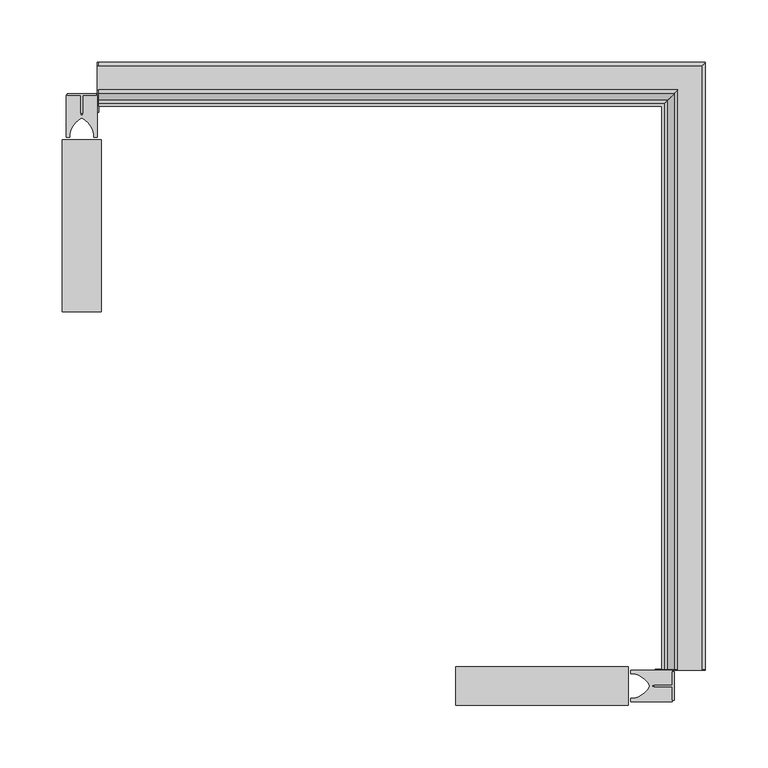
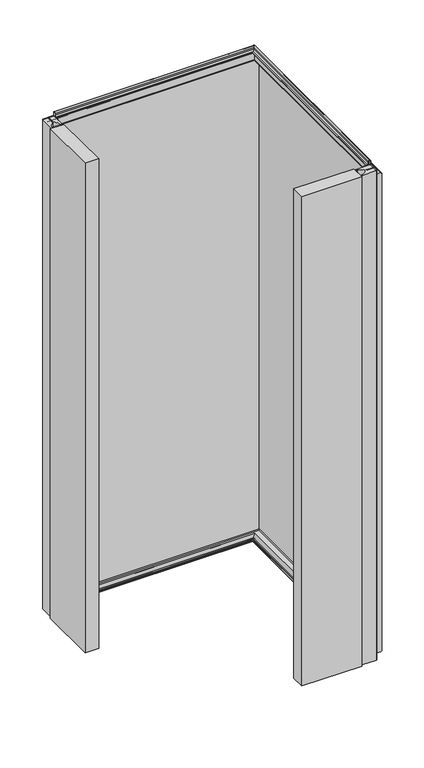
"""IFC4 building model written with IfcOpenShell, lengths in millimetres: plate geometry, Угловой модуль Fronttop : Угловой модуль Fronttop 200/1190."""

from ifc_helpers import new_model, si_unit, point, frame, frame_2d, origin, origin_with_axes, place, context, project, spatial, polyline, circle_curve, ellipse_curve, trimmed, segment, composite_curve, outline, extrude, source, transform, mapped, element, save
from ifc_brep_helpers import plane_surface, cylinder_surface, revolved_surface, advanced_brep


def plate_9b784b5d(model_context):
    return source(origin(), model_context, "Body", "SolidModel", [
        extrude(outline(polyline([(225.0, -288.4948846), (225.0, -311.5051154), (223.5, -311.5051154), (223.5, -300.6502496), (209.0759655, -300.6502496), (209.0759655, -299.35), (223.5, -299.35), (223.5, -288.4948846), (225.0, -288.4948846)])), origin_with_axes(), (0.0, 0.0, 1.0), 1190.0),
        extrude(outline(composite_curve([segment(polyline([(223.5, -287.4998455), (223.5, -299.25), (207.5, -299.25), (207.5, -300.75), (223.5, -300.75), (223.5, -312.5001545), (190.0, -312.5001545), (190.0, -309.75), (192.5, -309.75)]), True, "CONTINUOUS"), segment(trimmed(circle_curve(frame_2d((189.3183984, -291.9661979)), 18.0661619), [point((192.5, -309.75))], [point((205.5, -300.0))], True, "CARTESIAN"), True, "CONTINUOUS"), segment(trimmed(circle_curve(frame_2d((189.3183984, -308.0338021)), 18.0661619), [point((205.5, -300.0))], [point((192.5, -290.25))], True, "CARTESIAN"), True, "CONTINUOUS"), segment(polyline([(192.5, -290.25), (190.0, -290.25), (190.0, -287.4998455), (223.5, -287.4998455)]), True, "CONTINUOUS")], self_intersect=False)), origin_with_axes(), (0.0, 0.0, 1.0), 1190.0),
        extrude(outline(polyline([(50.0, -315.5), (50.0, -284.5), (188.0, -284.5), (188.0, -315.5), (50.0, -315.5)])), origin_with_axes(), (0.0, 0.0, 1.0), 1190.0),
        extrude(outline(polyline([(-261.5051154, 175.0), (-238.4948846, 175.0), (-238.4948846, 173.5), (-249.3497504, 173.5), (-249.3497504, 159.0759655), (-250.65, 159.0759655), (-250.65, 173.5), (-261.5051154, 173.5), (-261.5051154, 175.0)])), origin_with_axes(), (0.0, 0.0, 1.0), 1190.0),
        extrude(outline(composite_curve([segment(polyline([(-262.5001545, 173.5), (-250.75, 173.5), (-250.75, 157.5), (-249.25, 157.5), (-249.25, 173.5), (-237.4998455, 173.5), (-237.4998455, 140.0), (-240.25, 140.0), (-240.25, 142.5)]), True, "CONTINUOUS"), segment(trimmed(circle_curve(frame_2d((-258.0338021, 139.3183984)), 18.0661619), [point((-240.25, 142.5))], [point((-250.0, 155.5))], True, "CARTESIAN"), True, "CONTINUOUS"), segment(trimmed(circle_curve(frame_2d((-241.9661979, 139.3183984)), 18.0661619), [point((-250.0, 155.5))], [point((-259.75, 142.5))], True, "CARTESIAN"), True, "CONTINUOUS"), segment(polyline([(-259.75, 142.5), (-259.75, 140.0), (-262.5001545, 140.0), (-262.5001545, 173.5)]), True, "CONTINUOUS")], self_intersect=False)), origin_with_axes(), (0.0, 0.0, 1.0), 1190.0),
        extrude(outline(polyline([(-234.5, 0.0), (-265.5, 0.0), (-265.5, 138.0), (-234.5, 138.0), (-234.5, 0.0)])), origin_with_axes(), (0.0, 0.0, 1.0), 1190.0),
        advanced_brep(
        [(-236.5, 174.0, 1198.0), (-236.5, 171.0, 1198.0), (-236.5, 171.0, 1194.0), (-236.5, 167.0, 1190.0), (-236.5, 165.0, 1190.0), (-236.5, 165.0, 1191.0), (-236.5, 167.0, 1191.0), (-236.5, 170.0, 1194.0), (-236.5, 170.0, 1198.0), (-236.5, 175.0, 1198.0), (-236.5, 175.0, 1190.0), (-236.5, 174.0, 1190.0), (-236.5, 165.0, 2.0), (215.0, 165.0, 2.0), (215.0, 165.0, 3.0), (-236.5, 165.0, 3.0), (215.0, -286.5, 3.0), (217.0, -286.5, 3.0), (217.0, 167.0, 3.0), (-236.5, 167.0, 3.0), (218.0, 168.0, 4.0), (-236.5, 168.0, 4.0), (218.0, 168.0, 8.0), (-236.5, 168.0, 8.0), (227.0, 177.0, 8.0), (-236.5, 177.0, 8.0), (227.0, 177.0, 0.0), (-236.5, 177.0, 0.0), (229.0, 179.0, -2.0), (-236.5, 179.0, -2.0), (229.0, -286.5, -2.0), (247.0, -286.5, -2.0), (247.0, 197.0, -2.0), (-236.5, 197.0, -2.0), (249.0, 199.0, 0.0), (-236.5, 199.0, 0.0), (249.0, 199.0, 1159.0), (-236.5, 199.0, 1159.0), (247.0, 197.0, 1161.0), (-236.5, 197.0, 1161.0), (247.0, -286.5, 1161.0), (228.0, -286.5, 1161.0), (228.0, 178.0, 1161.0), (-236.5, 178.0, 1161.0), (224.0, 174.0, 1165.0), (-236.5, 174.0, 1165.0), (224.0, 174.0, 1198.0), (221.0, 171.0, 1198.0), (221.0, 171.0, 1194.0), (217.0, 167.0, 1190.0), (217.0, -286.5, 1190.0), (215.0, -286.5, 1190.0), (215.0, 165.0, 1190.0), (215.0, 165.0, 1191.0), (215.0, -286.5, 1191.0), (217.0, -286.5, 1191.0), (217.0, 167.0, 1191.0), (220.0, 170.0, 1194.0), (220.0, 170.0, 1198.0), (225.0, 175.0, 1198.0), (225.0, 175.0, 1165.0), (-236.5, 175.0, 1165.0), (-237.5, 175.0, 1165.0), (-237.5, 175.0, 1190.0), (228.0, 178.0, 1162.0), (-236.5, 178.0, 1162.0), (228.0, -286.5, 1162.0), (228.0, -287.5, 1162.0), (247.0, -287.5, 1162.0), (247.0, -286.5, 1162.0), (247.0, 197.0, 1162.0), (-236.5, 197.0, 1162.0), (-237.5, 197.0, 1162.0), (-237.5, 178.0, 1162.0), (250.0, 200.0, 1159.0), (-236.5, 200.0, 1159.0), (250.0, 200.0, 0.0), (-236.5, 200.0, 0.0), (-237.5, 200.0, 0.0), (-237.5, 200.0, 1159.0), (247.0, 197.0, -3.0), (-236.5, 197.0, -3.0), (247.0, -286.5, -3.0), (247.0, -287.5, -3.0), (225.0, -287.5, -3.0), (225.0, -286.5, -3.0), (229.0, -286.5, -3.0), (229.0, 179.0, -3.0), (-236.5, 179.0, -3.0), (-236.5, 175.0, -3.0), (-237.5, 175.0, -3.0), (-237.5, 197.0, -3.0), (226.0, 176.0, 0.0), (-236.5, 176.0, 0.0), (226.0, 176.0, 8.0), (-236.5, 176.0, 8.0), (219.0, 169.0, 8.0), (-236.5, 169.0, 8.0), (219.0, 169.0, 4.0), (-236.5, 169.0, 4.0), (217.0, 167.0, 2.0), (-236.5, 167.0, 2.0), (217.0, -286.5, 2.0), (215.0, -286.5, 2.0), (221.0, -286.5, 1194.0), (221.0, -286.5, 1198.0), (224.0, -286.5, 1198.0), (224.0, -286.5, 1190.0), (225.0, -286.5, 1190.0), (225.0, -286.5, 1198.0), (220.0, -286.5, 1198.0), (220.0, -286.5, 1194.0), (218.0, -286.5, 4.0), (218.0, -286.5, 8.0), (227.0, -286.5, 8.0), (227.0, -286.5, 0.0), (249.0, -286.5, 0.0), (249.0, -286.5, 1159.0), (224.0, -286.5, 1165.0), (225.0, -287.5, 1190.0), (225.0, -287.5, 1165.0), (225.0, -286.5, 1165.0), (250.0, -286.5, 1159.0), (250.0, -287.5, 1159.0), (250.0, -287.5, 0.0), (250.0, -286.5, 0.0), (226.0, -286.5, 0.0), (226.0, -286.5, 8.0), (219.0, -286.5, 8.0), (219.0, -286.5, 4.0), (-236.5, 160.0, 1190.0), (-236.5, 160.0, 0.0), (-236.5, 175.0, 0.0), (-237.5, 175.0, 0.0), (-237.5, 160.0, 0.0), (-237.5, 160.0, 1190.0), (210.0, -286.5, 0.0), (210.0, -286.5, 1190.0), (225.0, -286.5, 0.0), (210.0, -287.5, 0.0), (225.0, -287.5, 0.0), (210.0, -287.5, 1190.0)],
        [
            (0, 1, circle_curve(frame((-236.5, 172.5, 1198.0), z_axis=(1.0, 0.0, 0.0), x_axis=(0.0, -1.0, 0.0)), 1.5)),
            (1, 2),
            (2, 3, circle_curve(frame((-236.5, 167.0, 1194.0), z_axis=(-1.0, 0.0, 0.0), x_axis=(0.0, -1.0, 0.0)), 4.0)),
            (3, 4),
            (4, 5),
            (5, 6),
            (6, 7, circle_curve(frame((-236.5, 167.0, 1194.0), z_axis=(1.0, 0.0, 0.0), x_axis=(0.0, -1.0, 0.0)), 3.0)),
            (7, 8),
            (8, 9, circle_curve(frame((-236.5, 172.5, 1198.0), z_axis=(-1.0, 0.0, 0.0), x_axis=(0.0, -1.0, 0.0)), 2.5)),
            (9, 10),
            (10, 11),
            (11, 0),
            (12, 13),
            (13, 14),
            (14, 15),
            (15, 12),
            (14, 16),
            (16, 17),
            (17, 18),
            (18, 19),
            (19, 15),
            (18, 20, ellipse_curve(frame((217.0, 167.0, 4.0), z_axis=(0.7071067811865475, -0.7071067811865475, 0.0), x_axis=(0.7071067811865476, 0.7071067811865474, 0.0)), 1.4142136, 1.0)),
            (20, 21),
            (21, 19, circle_curve(frame((-236.5, 167.0, 4.0), z_axis=(-1.0, 0.0, 0.0), x_axis=(0.0, -1.0, 0.0)), 1.0)),
            (20, 22),
            (22, 23),
            (23, 21),
            (22, 24, ellipse_curve(frame((222.5, 172.5, 8.0), z_axis=(-0.7071067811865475, 0.7071067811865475, 0.0), x_axis=(-0.7071067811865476, -0.7071067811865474, 0.0)), 6.363961, 4.5)),
            (24, 25),
            (25, 23, circle_curve(frame((-236.5, 172.5, 8.0), z_axis=(1.0, 0.0, 0.0), x_axis=(0.0, -1.0, 0.0)), 4.5)),
            (24, 26),
            (26, 27),
            (27, 25),
            (26, 28, ellipse_curve(frame((229.0, 179.0, 0.0), z_axis=(0.7071067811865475, -0.7071067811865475, 0.0), x_axis=(0.7071067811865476, 0.7071067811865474, 0.0)), 2.8284271, 2.0)),
            (28, 29),
            (29, 27, circle_curve(frame((-236.5, 179.0, 0.0), z_axis=(-1.0, 0.0, 0.0), x_axis=(0.0, -1.0, 0.0)), 2.0)),
            (28, 30),
            (30, 31),
            (31, 32),
            (32, 33),
            (33, 29),
            (32, 34, ellipse_curve(frame((247.0, 197.0, 0.0), z_axis=(0.7071067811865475, -0.7071067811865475, 0.0), x_axis=(0.7071067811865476, 0.7071067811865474, 0.0)), 2.8284271, 2.0)),
            (34, 35),
            (35, 33, circle_curve(frame((-236.5, 197.0, 0.0), z_axis=(-1.0, 0.0, 0.0), x_axis=(0.0, -1.0, 0.0)), 2.0)),
            (34, 36),
            (36, 37),
            (37, 35),
            (36, 38, ellipse_curve(frame((247.0, 197.0, 1159.0), z_axis=(0.7071067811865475, -0.7071067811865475, 0.0), x_axis=(0.7071067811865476, 0.7071067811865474, 0.0)), 2.8284271, 2.0)),
            (38, 39),
            (39, 37, circle_curve(frame((-236.5, 197.0, 1159.0), z_axis=(-1.0, 0.0, 0.0), x_axis=(0.0, -1.0, 0.0)), 2.0)),
            (38, 40),
            (40, 41),
            (41, 42),
            (42, 43),
            (43, 39),
            (42, 44, ellipse_curve(frame((228.0, 178.0, 1165.0), z_axis=(-0.7071067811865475, 0.7071067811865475, 0.0), x_axis=(-0.7071067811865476, -0.7071067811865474, 0.0)), 5.6568542, 4.0)),
            (44, 45),
            (45, 43, circle_curve(frame((-236.5, 178.0, 1165.0), z_axis=(1.0, 0.0, 0.0), x_axis=(0.0, -1.0, 0.0)), 4.0)),
            (44, 46),
            (46, 0),
            (11, 45),
            (46, 47, ellipse_curve(frame((222.5, 172.5, 1198.0), z_axis=(0.7071067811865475, -0.7071067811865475, 0.0), x_axis=(0.7071067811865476, 0.7071067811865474, 0.0)), 2.1213203, 1.5)),
            (47, 1),
            (47, 48),
            (48, 2),
            (48, 49, ellipse_curve(frame((217.0, 167.0, 1194.0), z_axis=(-0.7071067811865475, 0.7071067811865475, 0.0), x_axis=(-0.7071067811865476, -0.7071067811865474, 0.0)), 5.6568542, 4.0)),
            (49, 3),
            (49, 50),
            (50, 51),
            (51, 52),
            (52, 4),
            (4, 3),
            (52, 53),
            (53, 5),
            (53, 54),
            (54, 55),
            (55, 56),
            (56, 6),
            (56, 57, ellipse_curve(frame((217.0, 167.0, 1194.0), z_axis=(0.7071067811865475, -0.7071067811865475, 0.0), x_axis=(0.7071067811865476, 0.7071067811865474, 0.0)), 4.2426407, 3.0)),
            (57, 7),
            (57, 58),
            (58, 8),
            (58, 59, ellipse_curve(frame((222.5, 172.5, 1198.0), z_axis=(-0.7071067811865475, 0.7071067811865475, 0.0), x_axis=(-0.7071067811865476, -0.7071067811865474, 0.0)), 3.5355339, 2.5)),
            (59, 9),
            (59, 60),
            (60, 61),
            (61, 62),
            (62, 63),
            (63, 10),
            (60, 64, ellipse_curve(frame((228.0, 178.0, 1165.0), z_axis=(0.7071067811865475, -0.7071067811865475, 0.0), x_axis=(0.7071067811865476, 0.7071067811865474, 0.0)), 4.2426407, 3.0)),
            (64, 65),
            (65, 61, circle_curve(frame((-236.5, 178.0, 1165.0), z_axis=(-1.0, 0.0, 0.0), x_axis=(0.0, -1.0, 0.0)), 3.0)),
            (64, 66),
            (66, 67),
            (67, 68),
            (68, 69),
            (69, 70),
            (70, 71),
            (71, 72),
            (72, 73),
            (73, 65),
            (70, 74, ellipse_curve(frame((247.0, 197.0, 1159.0), z_axis=(-0.7071067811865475, 0.7071067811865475, 0.0), x_axis=(-0.7071067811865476, -0.7071067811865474, 0.0)), 4.2426407, 3.0)),
            (74, 75),
            (75, 71, circle_curve(frame((-236.5, 197.0, 1159.0), z_axis=(1.0, 0.0, 0.0), x_axis=(0.0, -1.0, 0.0)), 3.0)),
            (74, 76),
            (76, 77),
            (77, 78),
            (78, 79),
            (79, 75),
            (76, 80, ellipse_curve(frame((247.0, 197.0, 0.0), z_axis=(-0.7071067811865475, 0.7071067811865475, 0.0), x_axis=(-0.7071067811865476, -0.7071067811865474, 0.0)), 4.2426407, 3.0)),
            (80, 81),
            (81, 77, circle_curve(frame((-236.5, 197.0, 0.0), z_axis=(1.0, 0.0, 0.0), x_axis=(0.0, -1.0, 0.0)), 3.0)),
            (80, 82),
            (82, 83),
            (83, 84),
            (84, 85),
            (85, 86),
            (86, 87),
            (87, 88),
            (88, 89),
            (89, 90),
            (90, 91),
            (91, 81),
            (87, 92, ellipse_curve(frame((229.0, 179.0, 0.0), z_axis=(-0.7071067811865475, 0.7071067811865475, 0.0), x_axis=(-0.7071067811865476, -0.7071067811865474, 0.0)), 4.2426407, 3.0)),
            (92, 93),
            (93, 88, circle_curve(frame((-236.5, 179.0, 0.0), z_axis=(1.0, 0.0, 0.0), x_axis=(0.0, -1.0, 0.0)), 3.0)),
            (92, 94),
            (94, 95),
            (95, 93),
            (94, 96, ellipse_curve(frame((222.5, 172.5, 8.0), z_axis=(0.7071067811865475, -0.7071067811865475, 0.0), x_axis=(0.7071067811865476, 0.7071067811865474, 0.0)), 4.9497475, 3.5)),
            (96, 97),
            (97, 95, circle_curve(frame((-236.5, 172.5, 8.0), z_axis=(-1.0, 0.0, 0.0), x_axis=(0.0, -1.0, 0.0)), 3.5)),
            (96, 98),
            (98, 99),
            (99, 97),
            (98, 100, ellipse_curve(frame((217.0, 167.0, 4.0), z_axis=(-0.7071067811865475, 0.7071067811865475, 0.0), x_axis=(-0.7071067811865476, -0.7071067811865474, 0.0)), 2.8284271, 2.0)),
            (100, 101),
            (101, 99, circle_curve(frame((-236.5, 167.0, 4.0), z_axis=(1.0, 0.0, 0.0), x_axis=(0.0, -1.0, 0.0)), 2.0)),
            (12, 101),
            (100, 102),
            (102, 103),
            (103, 13),
            (54, 51),
            (51, 50),
            (50, 104, circle_curve(frame((217.0, -286.5, 1194.0), z_axis=(0.0, -1.0, 0.0), x_axis=(-1.0, 0.0, 0.0)), 4.0)),
            (104, 105),
            (105, 106, circle_curve(frame((222.5, -286.5, 1198.0), z_axis=(0.0, 1.0, 0.0), x_axis=(-1.0, 0.0, 0.0)), 1.5)),
            (106, 107),
            (107, 108),
            (108, 109),
            (109, 110, circle_curve(frame((222.5, -286.5, 1198.0), z_axis=(0.0, -1.0, 0.0), x_axis=(-1.0, 0.0, 0.0)), 2.5)),
            (110, 111),
            (111, 55, circle_curve(frame((217.0, -286.5, 1194.0), z_axis=(0.0, 1.0, 0.0), x_axis=(-1.0, 0.0, 0.0)), 3.0)),
            (103, 16),
            (17, 112, circle_curve(frame((217.0, -286.5, 4.0), z_axis=(0.0, -1.0, 0.0), x_axis=(-1.0, 0.0, 0.0)), 1.0)),
            (112, 20),
            (112, 113),
            (113, 22),
            (113, 114, circle_curve(frame((222.5, -286.5, 8.0), z_axis=(0.0, 1.0, 0.0), x_axis=(-1.0, 0.0, 0.0)), 4.5)),
            (114, 24),
            (114, 115),
            (115, 26),
            (115, 30, circle_curve(frame((229.0, -286.5, 0.0), z_axis=(0.0, -1.0, 0.0), x_axis=(-1.0, 0.0, 0.0)), 2.0)),
            (31, 116, circle_curve(frame((247.0, -286.5, 0.0), z_axis=(0.0, -1.0, 0.0), x_axis=(-1.0, 0.0, 0.0)), 2.0)),
            (116, 34),
            (116, 117),
            (117, 36),
            (117, 40, circle_curve(frame((247.0, -286.5, 1159.0), z_axis=(0.0, -1.0, 0.0), x_axis=(-1.0, 0.0, 0.0)), 2.0)),
            (41, 118, circle_curve(frame((228.0, -286.5, 1165.0), z_axis=(0.0, 1.0, 0.0), x_axis=(-1.0, 0.0, 0.0)), 4.0)),
            (118, 44),
            (118, 107),
            (106, 46),
            (105, 47),
            (104, 48),
            (111, 57),
            (110, 58),
            (109, 59),
            (108, 119),
            (119, 120),
            (120, 121),
            (121, 60),
            (121, 66, circle_curve(frame((228.0, -286.5, 1165.0), z_axis=(0.0, -1.0, 0.0), x_axis=(-1.0, 0.0, 0.0)), 3.0)),
            (69, 122, circle_curve(frame((247.0, -286.5, 1159.0), z_axis=(0.0, 1.0, 0.0), x_axis=(-1.0, 0.0, 0.0)), 3.0)),
            (122, 74),
            (122, 123),
            (123, 124),
            (124, 125),
            (125, 76),
            (125, 82, circle_curve(frame((247.0, -286.5, 0.0), z_axis=(0.0, 1.0, 0.0), x_axis=(-1.0, 0.0, 0.0)), 3.0)),
            (86, 126, circle_curve(frame((229.0, -286.5, 0.0), z_axis=(0.0, 1.0, 0.0), x_axis=(-1.0, 0.0, 0.0)), 3.0)),
            (126, 92),
            (126, 127),
            (127, 94),
            (127, 128, circle_curve(frame((222.5, -286.5, 8.0), z_axis=(0.0, -1.0, 0.0), x_axis=(-1.0, 0.0, 0.0)), 3.5)),
            (128, 96),
            (128, 129),
            (129, 98),
            (129, 102, circle_curve(frame((217.0, -286.5, 4.0), z_axis=(0.0, 1.0, 0.0), x_axis=(-1.0, 0.0, 0.0)), 2.0)),
            (130, 131),
            (131, 132),
            (132, 89),
            (11, 3),
            (4, 130),
            (62, 73, circle_curve(frame((-237.5, 178.0, 1165.0), z_axis=(1.0, 0.0, 0.0), x_axis=(0.0, 1.0, 0.0)), 3.0)),
            (72, 79, circle_curve(frame((-237.5, 197.0, 1159.0), z_axis=(-1.0, 0.0, 0.0), x_axis=(0.0, 1.0, 0.0)), 3.0)),
            (78, 91, circle_curve(frame((-237.5, 197.0, 0.0), z_axis=(-1.0, 0.0, 0.0), x_axis=(0.0, 1.0, 0.0)), 3.0)),
            (90, 133),
            (133, 134),
            (134, 135),
            (135, 63),
            (135, 130),
            (134, 131),
            (133, 132),
            (136, 137),
            (137, 51),
            (50, 107),
            (85, 138),
            (138, 136),
            (139, 140),
            (140, 84),
            (83, 124, circle_curve(frame((247.0, -287.5, 0.0), z_axis=(0.0, -1.0, 0.0), x_axis=(-1.0, 0.0, 0.0)), 3.0)),
            (123, 68, circle_curve(frame((247.0, -287.5, 1159.0), z_axis=(0.0, -1.0, 0.0), x_axis=(-1.0, 0.0, 0.0)), 3.0)),
            (67, 120, circle_curve(frame((228.0, -287.5, 1165.0), z_axis=(0.0, 1.0, 0.0), x_axis=(-1.0, 0.0, 0.0)), 3.0)),
            (119, 141),
            (141, 139),
            (138, 140),
            (139, 136),
            (137, 141),
        ],
        [
            plane_surface(frame((-236.5, 0.0, 0.0), z_axis=(-1.0, 0.0, 0.0), x_axis=(0.0, 0.0, 1.0))),
            plane_surface(frame((-236.5, 165.0, 2.0), z_axis=(0.0, -1.0, 0.0), x_axis=(1.0, 0.0, 0.0))),
            plane_surface(frame((-236.5, 165.0, 3.0), z_axis=(0.0, 0.0, 1.0), x_axis=(1.0, 0.0, 0.0))),
            revolved_surface(polyline([(218.00000002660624, 166.0, 4.0), (-236.5, 166.0, 4.0)]), (-236.5, 167.0, 4.0), (1.0, 0.0, 0.0)),
            plane_surface(frame((-236.5, 168.0, 4.0), z_axis=(0.0, -1.0, 0.0), x_axis=(1.0, 0.0, 0.0))),
            cylinder_surface(frame((-236.5, 172.5, 8.0), z_axis=(-1.0, 0.0, 0.0), x_axis=(0.0, -1.0, 0.0)), 4.5),
            plane_surface(frame((-236.5, 177.0, 8.0), z_axis=(0.0, 1.0, 0.0), x_axis=(1.0, 0.0, 0.0))),
            revolved_surface(polyline([(230.99999998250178, 177.0, 0.0), (-236.5, 177.0, 0.0)]), (-236.5, 179.0, 0.0), (1.0, 0.0, 0.0)),
            plane_surface(frame((-236.5, 179.0, -2.0), z_axis=(0.0, 0.0, 1.0), x_axis=(1.0, 0.0, 0.0))),
            revolved_surface(polyline([(249.0, 195.0, 0.0), (-236.5, 195.0, 0.0)]), (-236.5, 197.0, 0.0), (1.0, 0.0, 0.0)),
            plane_surface(frame((-236.5, 199.0, 0.0), z_axis=(0.0, -1.0, 0.0), x_axis=(1.0, 0.0, 0.0))),
            revolved_surface(polyline([(249.0, 195.0, 1159.0), (-236.5, 195.0, 1159.0)]), (-236.5, 197.0, 1159.0), (1.0, 0.0, 0.0)),
            plane_surface(frame((-236.5, 197.0, 1161.0), z_axis=(0.0, 0.0, -1.0), x_axis=(1.0, 0.0, 0.0))),
            cylinder_surface(frame((-236.5, 178.0, 1165.0), z_axis=(-1.0, 0.0, 0.0), x_axis=(0.0, -1.0, 0.0)), 4.0),
            plane_surface(frame((-236.5, 174.0, 1165.0), z_axis=(0.0, -1.0, 0.0), x_axis=(1.0, 0.0, 0.0))),
            revolved_surface(polyline([(224.0, 171.0, 1198.0), (-236.5, 171.0, 1198.0)]), (-236.5, 172.5, 1198.0), (1.0, 0.0, 0.0)),
            plane_surface(frame((-236.5, 171.0, 1198.0), z_axis=(0.0, 1.0, 0.0), x_axis=(1.0, 0.0, 0.0))),
            cylinder_surface(frame((-236.5, 167.0, 1194.0), z_axis=(-1.0, 0.0, 0.0), x_axis=(0.0, -1.0, 0.0)), 4.0),
            plane_surface(frame((-236.5, 167.0, 1190.0), z_axis=(0.0, 0.0, -1.0), x_axis=(1.0, 0.0, 0.0))),
            plane_surface(frame((-236.5, 165.0, 1190.0), z_axis=(0.0, -1.0, 0.0), x_axis=(1.0, 0.0, 0.0))),
            plane_surface(frame((-236.5, 165.0, 1191.0), z_axis=(0.0, 0.0, 1.0), x_axis=(1.0, 0.0, 0.0))),
            revolved_surface(polyline([(220.00000000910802, 164.0, 1194.0), (-236.5, 164.0, 1194.0)]), (-236.5, 167.0, 1194.0), (1.0, 0.0, 0.0)),
            plane_surface(frame((-236.5, 170.0, 1194.0), z_axis=(0.0, -1.0, 0.0), x_axis=(1.0, 0.0, 0.0))),
            cylinder_surface(frame((-236.5, 172.5, 1198.0), z_axis=(-1.0, 0.0, 0.0), x_axis=(0.0, -1.0, 0.0)), 2.5),
            plane_surface(frame((-236.5, 175.0, 1198.0), z_axis=(0.0, 1.0, 0.0), x_axis=(1.0, 0.0, 0.0))),
            revolved_surface(polyline([(231.00000000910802, 175.0, 1165.0), (-236.5, 175.0, 1165.0)]), (-236.5, 178.0, 1165.0), (1.0, 0.0, 0.0)),
            plane_surface(frame((-236.5, 178.0, 1162.0), z_axis=(0.0, 0.0, 1.0), x_axis=(1.0, 0.0, 0.0))),
            cylinder_surface(frame((-236.5, 197.0, 1159.0), z_axis=(-1.0, 0.0, 0.0), x_axis=(0.0, -1.0, 0.0)), 3.0),
            plane_surface(frame((-236.5, 200.0, 1159.0), z_axis=(0.0, 1.0, 0.0), x_axis=(1.0, 0.0, 0.0))),
            cylinder_surface(frame((-236.5, 197.0, 0.0), z_axis=(-1.0, 0.0, 0.0), x_axis=(0.0, -1.0, 0.0)), 3.0),
            plane_surface(frame((-236.5, 197.0, -3.0), z_axis=(0.0, 0.0, -1.0), x_axis=(1.0, 0.0, 0.0))),
            cylinder_surface(frame((-236.5, 179.0, 0.0), z_axis=(-1.0, 0.0, 0.0), x_axis=(0.0, -1.0, 0.0)), 3.0),
            plane_surface(frame((-236.5, 176.0, 0.0), z_axis=(0.0, -1.0, 0.0), x_axis=(1.0, 0.0, 0.0))),
            revolved_surface(polyline([(226.00000002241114, 169.0, 8.0), (-236.5, 169.0, 8.0)]), (-236.5, 172.5, 8.0), (1.0, 0.0, 0.0)),
            plane_surface(frame((-236.5, 169.0, 8.0), z_axis=(0.0, 1.0, 0.0), x_axis=(1.0, 0.0, 0.0))),
            cylinder_surface(frame((-236.5, 167.0, 4.0), z_axis=(-1.0, 0.0, 0.0), x_axis=(0.0, -1.0, 0.0)), 2.0),
            plane_surface(frame((-236.5, 167.0, 2.0), z_axis=(0.0, 0.0, -1.0), x_axis=(1.0, 0.0, 0.0))),
            plane_surface(frame((50.0, -286.5, 0.0), z_axis=(0.0, -1.0, 0.0), x_axis=(0.0, 0.0, 1.0))),
            plane_surface(frame((215.0, 165.0, 2.0), z_axis=(-1.0, 0.0, 0.0), x_axis=(0.0, -1.0, 0.0))),
            revolved_surface(polyline([(216.0, -286.5, 4.0), (216.0, 168.00000002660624, 4.0)]), (217.0, 0.0, 4.0), (0.0, -1.0, 0.0)),
            plane_surface(frame((218.0, 168.0, 4.0), z_axis=(-1.0, 0.0, 0.0), x_axis=(0.0, -1.0, 0.0))),
            cylinder_surface(frame((222.5, 0.0, 8.0), z_axis=(0.0, 1.0, 0.0), x_axis=(-1.0, 0.0, 0.0)), 4.5),
            plane_surface(frame((227.0, 177.0, 8.0), z_axis=(1.0, 0.0, 0.0), x_axis=(0.0, -1.0, 0.0))),
            revolved_surface(polyline([(227.0, -286.5, 0.0), (227.0, 180.9999999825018, 0.0)]), (229.0, 0.0, 0.0), (0.0, -1.0, 0.0)),
            revolved_surface(polyline([(245.0, -286.5, 0.0), (245.0, 199.0, 0.0)]), (247.0, 0.0, 0.0), (0.0, -1.0, 0.0)),
            plane_surface(frame((249.0, 199.0, 0.0), z_axis=(-1.0, 0.0, 0.0), x_axis=(0.0, -1.0, 0.0))),
            revolved_surface(polyline([(245.0, -286.5, 1159.0), (245.0, 199.0, 1159.0)]), (247.0, 0.0, 1159.0), (0.0, -1.0, 0.0)),
            cylinder_surface(frame((228.0, 0.0, 1165.0), z_axis=(0.0, 1.0, 0.0), x_axis=(-1.0, 0.0, 0.0)), 4.0),
            plane_surface(frame((224.0, 174.0, 1165.0), z_axis=(-1.0, 0.0, 0.0), x_axis=(0.0, -1.0, 0.0))),
            revolved_surface(polyline([(221.0, -286.5, 1198.0), (221.0, 174.0, 1198.0)]), (222.5, 0.0, 1198.0), (0.0, -1.0, 0.0)),
            plane_surface(frame((221.0, 171.0, 1198.0), z_axis=(1.0, 0.0, 0.0), x_axis=(0.0, -1.0, 0.0))),
            cylinder_surface(frame((217.0, 0.0, 1194.0), z_axis=(0.0, 1.0, 0.0), x_axis=(-1.0, 0.0, 0.0)), 4.0),
            plane_surface(frame((215.0, 165.0, 1190.0), z_axis=(-1.0, 0.0, 0.0), x_axis=(0.0, -1.0, 0.0))),
            revolved_surface(polyline([(214.0, -286.5, 1194.0), (214.0, 170.00000000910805, 1194.0)]), (217.0, 0.0, 1194.0), (0.0, -1.0, 0.0)),
            plane_surface(frame((220.0, 170.0, 1194.0), z_axis=(-1.0, 0.0, 0.0), x_axis=(0.0, -1.0, 0.0))),
            cylinder_surface(frame((222.5, 0.0, 1198.0), z_axis=(0.0, 1.0, 0.0), x_axis=(-1.0, 0.0, 0.0)), 2.5),
            plane_surface(frame((225.0, 175.0, 1198.0), z_axis=(1.0, 0.0, 0.0), x_axis=(0.0, -1.0, 0.0))),
            revolved_surface(polyline([(225.0, -286.5, 1165.0), (225.0, 181.00000000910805, 1165.0)]), (228.0, 0.0, 1165.0), (0.0, -1.0, 0.0)),
            cylinder_surface(frame((247.0, 0.0, 1159.0), z_axis=(0.0, 1.0, 0.0), x_axis=(-1.0, 0.0, 0.0)), 3.0),
            plane_surface(frame((250.0, 200.0, 1159.0), z_axis=(1.0, 0.0, 0.0), x_axis=(0.0, -1.0, 0.0))),
            cylinder_surface(frame((247.0, 0.0, 0.0), z_axis=(0.0, 1.0, 0.0), x_axis=(-1.0, 0.0, 0.0)), 3.0),
            cylinder_surface(frame((229.0, 0.0, 0.0), z_axis=(0.0, 1.0, 0.0), x_axis=(-1.0, 0.0, 0.0)), 3.0),
            plane_surface(frame((226.0, 176.0, 0.0), z_axis=(-1.0, 0.0, 0.0), x_axis=(0.0, -1.0, 0.0))),
            revolved_surface(polyline([(219.0, -286.5, 8.0), (219.0, 176.00000002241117, 8.0)]), (222.5, 0.0, 8.0), (0.0, -1.0, 0.0)),
            plane_surface(frame((219.0, 169.0, 8.0), z_axis=(1.0, 0.0, 0.0), x_axis=(0.0, -1.0, 0.0))),
            cylinder_surface(frame((217.0, 0.0, 4.0), z_axis=(0.0, 1.0, 0.0), x_axis=(-1.0, 0.0, 0.0)), 2.0),
            plane_surface(frame((-236.5, 175.0, 1190.0), z_axis=(1.0, 0.0, 0.0), x_axis=(0.0, -1.0, 0.0))),
            plane_surface(frame((-237.5, 175.0, 1190.0), z_axis=(-1.0, 0.0, 0.0), x_axis=(0.0, 1.0, 0.0))),
            plane_surface(frame((-236.5, 175.0, 1190.0), z_axis=(0.0, 0.0, 1.0), x_axis=(-1.0, 0.0, 0.0))),
            plane_surface(frame((-236.5, 160.0, 1190.0), z_axis=(0.0, -1.0, 0.0), x_axis=(-1.0, 0.0, 0.0))),
            plane_surface(frame((-236.5, 160.0, 0.0), z_axis=(0.0, 0.0, -1.0), x_axis=(-1.0, 0.0, 0.0))),
            plane_surface(frame((-236.5, 175.0, 0.0), z_axis=(0.0, -1.0, 0.0), x_axis=(-1.0, 0.0, 0.0))),
            cylinder_surface(frame((-237.5, 197.0, 0.0), z_axis=(1.0, 0.0, 0.0), x_axis=(0.0, 1.0, 0.0)), 3.0),
            cylinder_surface(frame((-237.5, 197.0, 1159.0), z_axis=(1.0, 0.0, 0.0), x_axis=(0.0, 1.0, 0.0)), 3.0),
            revolved_surface(polyline([(-237.5, 181.0, 1165.0), (-236.5, 181.0, 1165.0)]), (-237.5, 178.0, 1165.0), (-1.0, 0.0, 0.0)),
            plane_surface(frame((210.0, -286.5, 1190.0), z_axis=(0.0, 1.0, 0.0), x_axis=(0.0, 0.0, 1.0))),
            plane_surface(frame((210.0, -287.5, 1190.0), z_axis=(0.0, -1.0, 0.0), x_axis=(0.0, 0.0, -1.0))),
            plane_surface(frame((225.0, -286.5, 0.0), z_axis=(0.0, 0.0, -1.0), x_axis=(0.0, -1.0, 0.0))),
            plane_surface(frame((225.0, -286.5, -3.0), z_axis=(-1.0, 0.0, 0.0), x_axis=(0.0, -1.0, 0.0))),
            cylinder_surface(frame((247.0, -287.5, 0.0), z_axis=(0.0, 1.0, 0.0), x_axis=(-1.0, 0.0, 0.0)), 3.0),
            cylinder_surface(frame((247.0, -287.5, 1159.0), z_axis=(0.0, 1.0, 0.0), x_axis=(-1.0, 0.0, 0.0)), 3.0),
            revolved_surface(polyline([(225.0, -287.5, 1165.0), (225.0, -286.5, 1165.0)]), (228.0, -287.5, 1165.0), (0.0, -1.0, 0.0)),
            plane_surface(frame((210.0, -286.5, 1190.0), z_axis=(0.0, 0.0, 1.0), x_axis=(0.0, -1.0, 0.0))),
            plane_surface(frame((210.0, -286.5, 0.0), z_axis=(-1.0, 0.0, 0.0), x_axis=(0.0, -1.0, 0.0))),
        ],
        [
            (0, [[1, 2, 3, 4, 5, 6, 7, 8, 9, 10, 11, 12]]),
            (1, [[13, 14, 15, 16]]),
            (2, [[-15, 17, 18, 19, 20, 21]]),
            (3, [[-20, 22, 23, 24]]),
            (4, [[-23, 25, 26, 27]]),
            (5, [[-26, 28, 29, 30]]),
            (6, [[-29, 31, 32, 33]]),
            (7, [[-32, 34, 35, 36]]),
            (8, [[-35, 37, 38, 39, 40, 41]]),
            (9, [[-40, 42, 43, 44]]),
            (10, [[-43, 45, 46, 47]]),
            (11, [[-46, 48, 49, 50]]),
            (12, [[-49, 51, 52, 53, 54, 55]]),
            (13, [[-54, 56, 57, 58]]),
            (14, [[-57, 59, 60, -12, 61]]),
            (15, [[-1, -60, 62, 63]]),
            (16, [[-2, -63, 64, 65]]),
            (17, [[-3, -65, 66, 67]]),
            (18, [[-67, 68, 69, 70, 71, 72]]),
            (19, [[-5, -71, 73, 74]]),
            (20, [[-6, -74, 75, 76, 77, 78]]),
            (21, [[-7, -78, 79, 80]]),
            (22, [[-8, -80, 81, 82]]),
            (23, [[-9, -82, 83, 84]]),
            (24, [[-84, 85, 86, 87, 88, 89, -10]]),
            (25, [[-86, 90, 91, 92]]),
            (26, [[-91, 93, 94, 95, 96, 97, 98, 99, 100, 101]]),
            (27, [[-98, 102, 103, 104]]),
            (28, [[-103, 105, 106, 107, 108, 109]]),
            (29, [[-106, 110, 111, 112]]),
            (30, [[-111, 113, 114, 115, 116, 117, 118, 119, 120, 121, 122, 123]]),
            (31, [[-119, 124, 125, 126]]),
            (32, [[-125, 127, 128, 129]]),
            (33, [[-128, 130, 131, 132]]),
            (34, [[-131, 133, 134, 135]]),
            (35, [[-134, 136, 137, 138]]),
            (36, [[-13, 139, -137, 140, 141, 142]]),
            (37, [[-76, 143, 144, 145, 146, 147, 148, 149, 150, 151, 152, 153]]),
            (38, [[-14, -142, 154, -17]]),
            (39, [[-19, 155, 156, -22]]),
            (40, [[-25, -156, 157, 158]]),
            (41, [[-28, -158, 159, 160]]),
            (42, [[-31, -160, 161, 162]]),
            (43, [[-34, -162, 163, -37]]),
            (44, [[-39, 164, 165, -42]]),
            (45, [[-45, -165, 166, 167]]),
            (46, [[-48, -167, 168, -51]]),
            (47, [[-53, 169, 170, -56]]),
            (48, [[-59, -170, 171, -148, 172]]),
            (49, [[-62, -172, -147, 173]]),
            (50, [[-64, -173, -146, 174]]),
            (51, [[-66, -174, -145, -68]]),
            (52, [[-70, -143, -75, -73]]),
            (53, [[-77, -153, 175, -79]]),
            (54, [[-81, -175, -152, 176]]),
            (55, [[-83, -176, -151, 177]]),
            (56, [[-85, -177, -150, 178, 179, 180, 181]]),
            (57, [[-90, -181, 182, -93]]),
            (58, [[-97, 183, 184, -102]]),
            (59, [[-105, -184, 185, 186, 187, 188]]),
            (60, [[-110, -188, 189, -113]]),
            (61, [[-118, 190, 191, -124]]),
            (62, [[-127, -191, 192, 193]]),
            (63, [[-130, -193, 194, 195]]),
            (64, [[-133, -195, 196, 197]]),
            (65, [[-136, -197, 198, -140]]),
            (66, [[199, 200, 201, -120, -126, -129, -132, -135, -138, -139, -16, -21, -24, -27, -30, -33, -36, -41, -44, -47, -50, -55, -58, -61, 202, -72, 203]]),
            (67, [[-88, 204, -100, 205, -108, 206, -122, 207, 208, 209, 210]]),
            (68, [[-210, 211, -203, -4, -202, -11, -89]]),
            (69, [[-199, -211, -209, 212]]),
            (70, [[-200, -212, -208, 213]]),
            (71, [[-201, -213, -207, -121]]),
            (72, [[-206, -107, -112, -123]]),
            (73, [[-205, -99, -104, -109]]),
            (74, [[-204, -87, -92, -101]]),
            (75, [[214, 215, -69, 216, -171, -169, -52, -168, -166, -164, -38, -163, -161, -159, -157, -155, -18, -154, -141, -198, -196, -194, -192, -190, -117, 217, 218]]),
            (76, [[219, 220, -115, 221, -186, 222, -95, 223, -179, 224, 225]]),
            (77, [[-218, 226, -219, 227]]),
            (78, [[-217, -116, -220, -226]]),
            (79, [[-221, -114, -189, -187]]),
            (80, [[-222, -185, -183, -96]]),
            (81, [[-223, -94, -182, -180]]),
            (82, [[-224, -178, -149, -216, -144, -215, 228]]),
            (83, [[-214, -227, -225, -228]]),
        ],
    ),
    ])


if __name__ == "__main__":
    model = new_model("IFC4")
    model_context = context("Model", 3, world=origin())
    ifc_project = project(units=[si_unit("LENGTHUNIT", "METRE", prefix="MILLI")], contexts=[model_context])
    site = spatial("IfcSite", under=ifc_project)
    building = spatial("IfcBuilding", under=site)
    placement = place(None, origin())
    plate_shape = plate_9b784b5d(model_context)
    element("IfcPlate", 1, ObjectType="Угловой модуль Fronttop : Угловой модуль Fronttop 200/1190", at=placement, inside=building, context=model_context, shape_type="MappedRepresentation", body=[
        mapped(plate_shape, transform((0.0, 0.0, 0.0), x_axis=(1.0, 0.0, 0.0), y_axis=(0.0, 1.0, 0.0), z_axis=(0.0, 0.0, 1.0))),
    ])
    save(model, "model.ifc")
